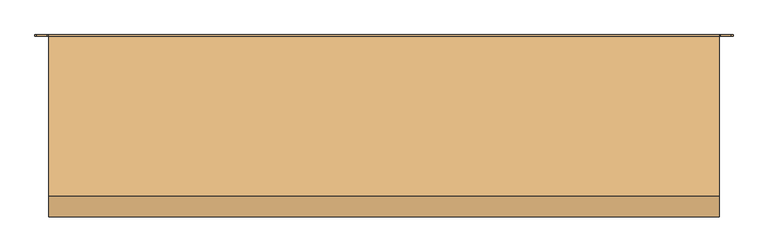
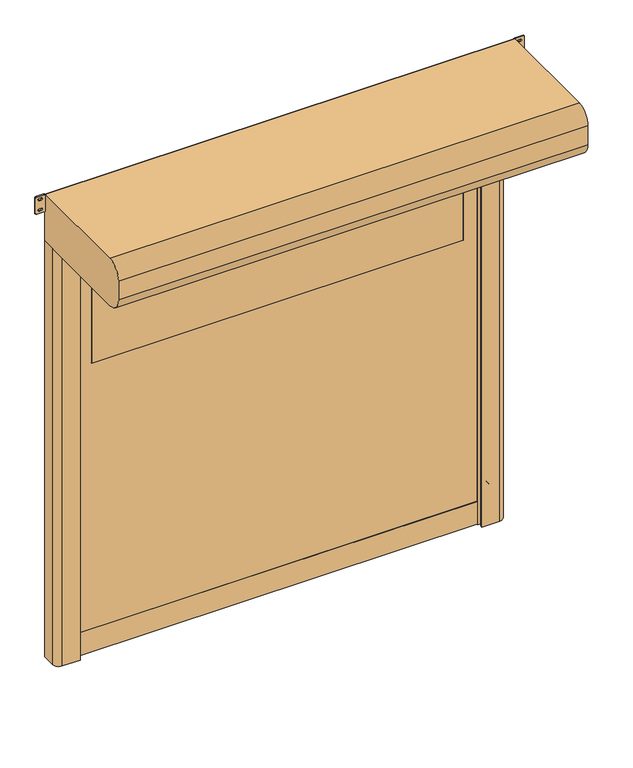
"""IFC4 building model written with IfcOpenShell, lengths in millimetres: door geometry, DO_WPB_Dynamicroll_BMP : Dynamicroll Low Headroom."""

import ifcopenshell
import ifcopenshell.guid

model = None  # the IFC model being written
_history = None  # IfcOwnerHistory: only IFC2X3 demands one
_inside = {}  # id of a spatial element -> (the spatial element, [elements in it])
_under = {}  # id of a project, library or spatial element -> (it, [spatial elements below it])
_declared = {}  # id of a project -> (the project, [libraries it declares])
_typed = {}  # id of a type object -> (the type object, [elements of that type])
_made_of = {}  # id of a material, layer set ... -> (it, [elements and type objects made of it])


def new_model(schema):
    """Start an empty IFC model of exactly this schema.

    Asked for "IFC4X3", IfcOpenShell would pick the latest addendum, in which some entities
    have other attributes; the version numbers below select the first issue.
    IFC2X3 requires an IfcOwnerHistory on every rooted entity: one is made here for all.
    """
    global model, _history
    if schema == "IFC4X3":
        model = ifcopenshell.file(schema_version=(4, 3, 0, 0))
    else:
        model = ifcopenshell.file(schema=schema)
    _inside.clear()
    _under.clear()
    _declared.clear()
    _typed.clear()
    _made_of.clear()
    _history = None
    if model.schema == "IFC2X3":
        org = make("IfcOrganization", Name="unknown")
        user = make(
            "IfcPersonAndOrganization",
            ThePerson=make("IfcPerson", FamilyName="unknown"),
            TheOrganization=org,
        )
        app = make(
            "IfcApplication",
            ApplicationDeveloper=org,
            Version="unknown",
            ApplicationFullName="unknown",
            ApplicationIdentifier="unknown",
        )
        _history = make(
            "IfcOwnerHistory",
            OwningUser=user,
            OwningApplication=app,
            ChangeAction="ADDED",
            CreationDate=0,
        )
    return model


def make(cls, **values):
    """One entity of the class cls with the attributes given. An attribute that is None is left unset."""
    return model.create_entity(
        cls, **{name: value for name, value in values.items() if value is not None}
    )


def rooted(cls, **values):
    """An entity with a GlobalId (a new one), such as an element, a storey or a relation."""
    return make(cls, GlobalId=ifcopenshell.guid.new(), OwnerHistory=_history, **values)


def si_unit(unit_type, name, prefix=None):
    """IfcSIUnit, for example si_unit("LENGTHUNIT", "METRE", prefix="MILLI")."""
    return make("IfcSIUnit", UnitType=unit_type, Prefix=prefix, Name=name)


def assignment(units):
    """IfcUnitAssignment: the units of a project."""
    return None if units is None else make("IfcUnitAssignment", Units=units)


def point(xyz):
    """IfcCartesianPoint."""
    return None if xyz is None else make("IfcCartesianPoint", Coordinates=xyz)


def direction(xyz):
    """IfcDirection."""
    return None if xyz is None else make("IfcDirection", DirectionRatios=xyz)


def frame(location, z_axis=None, x_axis=None):
    """IfcAxis2Placement3D, a coordinate frame: its origin and axes. An axis left out is left unset."""
    return make(
        "IfcAxis2Placement3D",
        Location=point(location),
        Axis=direction(z_axis),
        RefDirection=direction(x_axis),
    )


def frame_2d(location, x_axis=None):
    """IfcAxis2Placement2D, a coordinate frame in the plane: its origin and x axis."""
    return make(
        "IfcAxis2Placement2D", Location=point(location), RefDirection=direction(x_axis)
    )


def origin():
    """The frame at (0, 0, 0) with its axes left unset."""
    return frame((0.0, 0.0, 0.0))


def origin_with_axes():
    """The frame at (0, 0, 0) with the z axis (0, 0, 1) and the x axis (1, 0, 0) written out."""
    return frame((0.0, 0.0, 0.0), z_axis=(0.0, 0.0, 1.0), x_axis=(1.0, 0.0, 0.0))


def place(relative_to, where):
    """IfcLocalPlacement: puts the frame where relative to a parent placement (None: the world)."""
    return make(
        "IfcLocalPlacement", PlacementRelTo=relative_to, RelativePlacement=where
    )


def context(
    kind, dimensions, precision=None, world=None, true_north=None, identifier=None
):
    """IfcGeometricRepresentationContext, for example the 3D "Model" context."""
    return make(
        "IfcGeometricRepresentationContext",
        ContextIdentifier=identifier,
        ContextType=kind,
        CoordinateSpaceDimension=dimensions,
        Precision=precision,
        WorldCoordinateSystem=world,
        TrueNorth=true_north,
    )


def project(units=None, contexts=None):
    """IfcProject with its units and contexts."""
    return rooted(
        "IfcProject",
        Name="project",
        RepresentationContexts=contexts,
        UnitsInContext=assignment(units),
    )


def spatial(cls, under=None, at=None, **own):
    """A site, building, storey or space (cls), placed at a placement, below another one or the project."""
    s = rooted(cls, ObjectPlacement=at, **own)
    if under is not None:
        _under.setdefault(under.id(), (under, []))[1].append(s)
    return s


def polyline(points):
    """IfcPolyline through the points."""
    return make("IfcPolyline", Points=[point(p) for p in points])


def circle_curve(where, radius):
    """IfcCircle in the frame where."""
    return make("IfcCircle", Position=where, Radius=radius)


def trimmed(basis, trim1, trim2, sense, master):
    """IfcTrimmedCurve: the piece of a basis curve between two trims."""
    return make(
        "IfcTrimmedCurve",
        BasisCurve=basis,
        Trim1=trim1,
        Trim2=trim2,
        SenseAgreement=sense,
        MasterRepresentation=master,
    )


def segment(curve, same_sense, transition):
    """IfcCompositeCurveSegment."""
    return make(
        "IfcCompositeCurveSegment",
        Transition=transition,
        SameSense=same_sense,
        ParentCurve=curve,
    )


def composite_curve(segments, self_intersect=None):
    """IfcCompositeCurve: segments joined end to end."""
    return make("IfcCompositeCurve", Segments=segments, SelfIntersect=self_intersect)


def outline(outer, holes=None, kind="AREA"):
    """IfcArbitraryClosedProfileDef: a profile drawn as a closed curve; with holes, ...WithVoids."""
    if holes is None:
        return make("IfcArbitraryClosedProfileDef", ProfileType=kind, OuterCurve=outer)
    return make(
        "IfcArbitraryProfileDefWithVoids",
        ProfileType=kind,
        OuterCurve=outer,
        InnerCurves=holes,
    )


def extrude(swept, where, along, depth):
    """IfcExtrudedAreaSolid: the profile swept, set in the frame where, extruded along a direction by depth."""
    return make(
        "IfcExtrudedAreaSolid",
        SweptArea=swept,
        Position=where,
        ExtrudedDirection=direction(along),
        Depth=depth,
    )


def shape(context_of_items, identifier, shape_type, items):
    """IfcShapeRepresentation: the items that make up one representation, for example the "Body"."""
    return make(
        "IfcShapeRepresentation",
        ContextOfItems=context_of_items,
        RepresentationIdentifier=identifier,
        RepresentationType=shape_type,
        Items=items,
    )


def source(mapping_origin, context_of_items, identifier, shape_type, items):
    """IfcRepresentationMap: a shape defined once, which mapped items show again and again."""
    return make(
        "IfcRepresentationMap",
        MappingOrigin=mapping_origin,
        MappedRepresentation=shape(context_of_items, identifier, shape_type, items),
    )


def transform(
    local_origin,
    x_axis=None,
    y_axis=None,
    z_axis=None,
    scale=None,
    scale2=None,
    scale3=None,
    uniform=True,
):
    """IfcCartesianTransformationOperator3D, or its non-uniform kind. x_axis, y_axis, z_axis: its Axis1, 2, 3."""
    if uniform:
        return make(
            "IfcCartesianTransformationOperator3D",
            Axis1=direction(x_axis),
            Axis2=direction(y_axis),
            LocalOrigin=point(local_origin),
            Scale=scale,
            Axis3=direction(z_axis),
        )
    return make(
        "IfcCartesianTransformationOperator3DnonUniform",
        Axis1=direction(x_axis),
        Axis2=direction(y_axis),
        LocalOrigin=point(local_origin),
        Scale=scale,
        Axis3=direction(z_axis),
        Scale2=scale2,
        Scale3=scale3,
    )


def mapped(mapping_source, mapping_target):
    """IfcMappedItem: shows the shape of a source again, moved by a transform."""
    return make(
        "IfcMappedItem", MappingSource=mapping_source, MappingTarget=mapping_target
    )


def made_of(thing, what):
    """Note that an element or type object is made of a material, layer set ...; save() writes the relation."""
    if what is not None:
        _made_of.setdefault(what.id(), (what, []))[1].append(thing)
    return thing


def element(
    cls,
    number,
    at=None,
    inside=None,
    cuts=None,
    type_object=None,
    material=None,
    context=None,
    identifier="Body",
    shape_type=None,
    held_by="IfcProductDefinitionShape",
    body=None,
    shapes=None,
    **own,
):
    """One element of the class cls, such as IfcWall. Its Tag is "e" and its number.

    at: its placement. inside: the storey or other place that contains it. cuts: it is an
    opening in that element (IfcRelVoidsElement). A single representation is given by context,
    identifier, shape_type and body (its items); several are given by shapes. held_by: the class
    of the entity that holds the representations. save() writes the other relations.
    """
    e = rooted(cls, Tag="e%d" % number, ObjectPlacement=at, **own)
    if body is not None:
        shapes = [shape(context, identifier, shape_type, body)]
    if shapes is not None:
        e.Representation = make(held_by, Representations=shapes)
    if inside is not None:
        _inside.setdefault(inside.id(), (inside, []))[1].append(e)
    if cuts is not None:
        rooted(
            "IfcRelVoidsElement", RelatingBuildingElement=cuts, RelatedOpeningElement=e
        )
    if type_object is not None:
        _typed.setdefault(type_object.id(), (type_object, []))[1].append(e)
    return made_of(e, material)


def aggregate(whole, parts):
    """IfcRelAggregates: a whole, such as a stair, and the parts it consists of."""
    return rooted("IfcRelAggregates", RelatingObject=whole, RelatedObjects=parts)


def save(model, path):
    """Write the relations noted so far, then the file.

    IfcRelAggregates (storeys below a building ...), IfcRelContainedInSpatialStructure (elements
    in a storey), IfcRelDefinesByType, IfcRelAssociatesMaterial and IfcRelDeclares: one each for
    every whole, place, type object, material and project.
    """
    for whole, parts in _under.values():
        aggregate(whole, parts)
    for where, things in _inside.values():
        rooted(
            "IfcRelContainedInSpatialStructure",
            RelatedElements=things,
            RelatingStructure=where,
        )
    for kind, things in _typed.values():
        rooted("IfcRelDefinesByType", RelatedObjects=things, RelatingType=kind)
    for what, things in _made_of.values():
        rooted("IfcRelAssociatesMaterial", RelatedObjects=things, RelatingMaterial=what)
    for by, libraries in _declared.values():
        rooted("IfcRelDeclares", RelatingContext=by, RelatedDefinitions=libraries)
    model.write(path)


def door_88b36e2c(model_context):
    return source(origin(), model_context, "Body", "SweptSolid", [
        extrude(outline(composite_curve([segment(trimmed(circle_curve(frame_2d((1416.6666667, 1064.0)), 6.0), [point((1422.6666667, 1064.0))], [point((1410.6666667, 1064.0))], False, "CARTESIAN"), True, "CONTINUOUS"), segment(polyline([(1410.6666667, 1064.0), (1410.6666667, 1082.0)]), True, "CONTINUOUS"), segment(trimmed(circle_curve(frame_2d((1416.6666667, 1082.0)), 6.0), [point((1410.6666667, 1082.0))], [point((1422.6666667, 1082.0))], False, "CARTESIAN"), True, "CONTINUOUS"), segment(polyline([(1422.6666667, 1082.0), (1422.6666667, 1064.0)]), True, "CONTINUOUS")], self_intersect=False)), frame((0.0, -20.0, 0.0), z_axis=(0.0, 1.0, 0.0), x_axis=(0.0, 0.0, 1.0)), (0.0, 0.0, 1.0), 20.0),
        extrude(outline(composite_curve([segment(trimmed(circle_curve(frame_2d((783.3333333, 1064.0)), 6.0), [point((789.3333333, 1064.0))], [point((777.3333333, 1064.0))], False, "CARTESIAN"), True, "CONTINUOUS"), segment(polyline([(777.3333333, 1064.0), (777.3333333, 1082.0)]), True, "CONTINUOUS"), segment(trimmed(circle_curve(frame_2d((783.3333333, 1082.0)), 6.0), [point((777.3333333, 1082.0))], [point((789.3333333, 1082.0))], False, "CARTESIAN"), True, "CONTINUOUS"), segment(polyline([(789.3333333, 1082.0), (789.3333333, 1064.0)]), True, "CONTINUOUS")], self_intersect=False)), frame((0.0, -20.0, 0.0), z_axis=(0.0, 1.0, 0.0), x_axis=(0.0, 0.0, 1.0)), (0.0, 0.0, 1.0), 20.0),
        extrude(outline(composite_curve([segment(trimmed(circle_curve(frame_2d((2050.0, 1064.0)), 6.0), [point((2056.0, 1064.0))], [point((2044.0, 1064.0))], False, "CARTESIAN"), True, "CONTINUOUS"), segment(polyline([(2044.0, 1064.0), (2044.0, 1082.0)]), True, "CONTINUOUS"), segment(trimmed(circle_curve(frame_2d((2050.0, 1082.0)), 6.0), [point((2044.0, 1082.0))], [point((2056.0, 1082.0))], False, "CARTESIAN"), True, "CONTINUOUS"), segment(polyline([(2056.0, 1082.0), (2056.0, 1064.0)]), True, "CONTINUOUS")], self_intersect=False)), frame((0.0, -20.0, 0.0), z_axis=(0.0, 1.0, 0.0), x_axis=(0.0, 0.0, 1.0)), (0.0, 0.0, 1.0), 20.0),
        extrude(outline(composite_curve([segment(trimmed(circle_curve(frame_2d((150.0, 1064.0)), 6.0), [point((156.0, 1064.0))], [point((144.0, 1064.0))], False, "CARTESIAN"), True, "CONTINUOUS"), segment(polyline([(144.0, 1064.0), (144.0, 1082.0)]), True, "CONTINUOUS"), segment(trimmed(circle_curve(frame_2d((150.0, 1082.0)), 6.0), [point((144.0, 1082.0))], [point((156.0, 1082.0))], False, "CARTESIAN"), True, "CONTINUOUS"), segment(polyline([(156.0, 1082.0), (156.0, 1064.0)]), True, "CONTINUOUS")], self_intersect=False)), frame((0.0, -20.0, 0.0), z_axis=(0.0, 1.0, 0.0), x_axis=(0.0, 0.0, 1.0)), (0.0, 0.0, 1.0), 20.0),
        extrude(outline(composite_curve([segment(polyline([(1422.6666667, -1064.0), (1422.6666667, -1082.0)]), True, "CONTINUOUS"), segment(trimmed(circle_curve(frame_2d((1416.6666667, -1082.0)), 6.0), [point((1422.6666667, -1082.0))], [point((1410.6666667, -1082.0))], False, "CARTESIAN"), True, "CONTINUOUS"), segment(polyline([(1410.6666667, -1082.0), (1410.6666667, -1064.0)]), True, "CONTINUOUS"), segment(trimmed(circle_curve(frame_2d((1416.6666667, -1064.0)), 6.0), [point((1410.6666667, -1064.0))], [point((1422.6666667, -1064.0))], False, "CARTESIAN"), True, "CONTINUOUS")], self_intersect=False)), frame((0.0, -20.0, 0.0), z_axis=(0.0, 1.0, 0.0), x_axis=(0.0, 0.0, 1.0)), (0.0, 0.0, 1.0), 20.0),
        extrude(outline(composite_curve([segment(polyline([(789.3333333, -1064.0), (789.3333333, -1082.0)]), True, "CONTINUOUS"), segment(trimmed(circle_curve(frame_2d((783.3333333, -1082.0)), 6.0), [point((789.3333333, -1082.0))], [point((777.3333333, -1082.0))], False, "CARTESIAN"), True, "CONTINUOUS"), segment(polyline([(777.3333333, -1082.0), (777.3333333, -1064.0)]), True, "CONTINUOUS"), segment(trimmed(circle_curve(frame_2d((783.3333333, -1064.0)), 6.0), [point((777.3333333, -1064.0))], [point((789.3333333, -1064.0))], False, "CARTESIAN"), True, "CONTINUOUS")], self_intersect=False)), frame((0.0, -20.0, 0.0), z_axis=(0.0, 1.0, 0.0), x_axis=(0.0, 0.0, 1.0)), (0.0, 0.0, 1.0), 20.0),
        extrude(outline(composite_curve([segment(polyline([(2056.0, -1064.0), (2056.0, -1082.0)]), True, "CONTINUOUS"), segment(trimmed(circle_curve(frame_2d((2050.0, -1082.0)), 6.0), [point((2056.0, -1082.0))], [point((2044.0, -1082.0))], False, "CARTESIAN"), True, "CONTINUOUS"), segment(polyline([(2044.0, -1082.0), (2044.0, -1064.0)]), True, "CONTINUOUS"), segment(trimmed(circle_curve(frame_2d((2050.0, -1064.0)), 6.0), [point((2044.0, -1064.0))], [point((2056.0, -1064.0))], False, "CARTESIAN"), True, "CONTINUOUS")], self_intersect=False)), frame((0.0, -20.0, 0.0), z_axis=(0.0, 1.0, 0.0), x_axis=(0.0, 0.0, 1.0)), (0.0, 0.0, 1.0), 20.0),
        extrude(outline(composite_curve([segment(polyline([(156.0, -1064.0), (156.0, -1082.0)]), True, "CONTINUOUS"), segment(trimmed(circle_curve(frame_2d((150.0, -1082.0)), 6.0), [point((156.0, -1082.0))], [point((144.0, -1082.0))], False, "CARTESIAN"), True, "CONTINUOUS"), segment(polyline([(144.0, -1082.0), (144.0, -1064.0)]), True, "CONTINUOUS"), segment(trimmed(circle_curve(frame_2d((150.0, -1064.0)), 6.0), [point((144.0, -1064.0))], [point((156.0, -1064.0))], False, "CARTESIAN"), True, "CONTINUOUS")], self_intersect=False)), frame((0.0, -20.0, 0.0), z_axis=(0.0, 1.0, 0.0), x_axis=(0.0, 0.0, 1.0)), (0.0, 0.0, 1.0), 20.0),
        extrude(outline(composite_curve([segment(trimmed(circle_curve(frame_2d((1526.0, 929.0)), 1.0), [point((1525.0, 929.0))], [point((1526.0, 930.0))], False, "CARTESIAN"), True, "CONTINUOUS"), segment(polyline([(1526.0, 930.0), (2024.0, 930.0)]), True, "CONTINUOUS"), segment(trimmed(circle_curve(frame_2d((2024.0, 929.0)), 1.0), [point((2024.0, 930.0))], [point((2025.0, 929.0))], False, "CARTESIAN"), True, "CONTINUOUS"), segment(polyline([(2025.0, 929.0), (2025.0, -929.0)]), True, "CONTINUOUS"), segment(trimmed(circle_curve(frame_2d((2024.0, -929.0)), 1.0), [point((2025.0, -929.0))], [point((2024.0, -930.0))], False, "CARTESIAN"), True, "CONTINUOUS"), segment(polyline([(2024.0, -930.0), (1526.0, -930.0)]), True, "CONTINUOUS"), segment(trimmed(circle_curve(frame_2d((1526.0, -929.0)), 1.0), [point((1526.0, -930.0))], [point((1525.0, -929.0))], False, "CARTESIAN"), True, "CONTINUOUS"), segment(polyline([(1525.0, -929.0), (1525.0, 929.0)]), True, "CONTINUOUS")], self_intersect=False)), frame((0.0, -68.5, 0.0), z_axis=(0.0, 1.0, 0.0), x_axis=(0.0, 0.0, 1.0)), (0.0, 0.0, 1.0), 7.0),
        extrude(outline(polyline([(120.0, -1012.0), (120.0, 1012.0), (2325.0, 1012.0), (2325.0, -1012.0), (120.0, -1012.0)]), holes=[composite_curve([segment(trimmed(circle_curve(frame_2d((1526.0, 929.0)), 1.0), [point((1526.0, 930.0))], [point((1525.0, 929.0))], True, "CARTESIAN"), True, "CONTINUOUS"), segment(polyline([(1525.0, 929.0), (1525.0, -929.0)]), True, "CONTINUOUS"), segment(trimmed(circle_curve(frame_2d((1526.0, -929.0)), 1.0), [point((1525.0, -929.0))], [point((1526.0, -930.0))], True, "CARTESIAN"), True, "CONTINUOUS"), segment(polyline([(1526.0, -930.0), (2024.0, -930.0)]), True, "CONTINUOUS"), segment(trimmed(circle_curve(frame_2d((2024.0, -929.0)), 1.0), [point((2024.0, -930.0))], [point((2025.0, -929.0))], True, "CARTESIAN"), True, "CONTINUOUS"), segment(polyline([(2025.0, -929.0), (2025.0, 929.0)]), True, "CONTINUOUS"), segment(trimmed(circle_curve(frame_2d((2024.0, 929.0)), 1.0), [point((2025.0, 929.0))], [point((2024.0, 930.0))], True, "CARTESIAN"), True, "CONTINUOUS"), segment(polyline([(2024.0, 930.0), (1526.0, 930.0)]), True, "CONTINUOUS")], self_intersect=False)]), frame((0.0, -68.5, 0.0), z_axis=(0.0, 1.0, 0.0), x_axis=(0.0, 0.0, 1.0)), (0.0, 0.0, 1.0), 7.0),
        extrude(outline(polyline([(-1012.0, -59.5), (1012.0, -59.5), (1012.0, -70.5), (-1012.0, -70.5), (-1012.0, -59.5)])), origin_with_axes(), (0.0, 0.0, 1.0), 120.0),
        extrude(outline(composite_curve([segment(polyline([(-1125.0, 0.0), (-1015.0, 0.0), (-1015.0, -49.2857143), (-1035.0, -55.0), (-1000.0, -55.0), (-1000.0, -61.5), (-1020.0, -61.5), (-1020.0, -68.5), (-1000.0, -68.5), (-1000.0, -75.0), (-1035.0, -75.0), (-1035.0, -90.0), (-1005.0, -90.0), (-1005.0, -100.0), (-1095.0, -100.0)]), True, "CONTINUOUS"), segment(trimmed(circle_curve(frame_2d((-1095.0, -70.0)), 30.0), [point((-1095.0, -100.0))], [point((-1125.0, -70.0))], False, "CARTESIAN"), True, "CONTINUOUS"), segment(polyline([(-1125.0, -70.0), (-1125.0, 0.0)]), True, "CONTINUOUS")], self_intersect=False)), origin_with_axes(), (0.0, 0.0, 1.0), 2200.0),
        extrude(outline(composite_curve([segment(polyline([(1125.0, 0.0), (1125.0, -70.0)]), True, "CONTINUOUS"), segment(trimmed(circle_curve(frame_2d((1095.0, -70.0)), 30.0), [point((1125.0, -70.0))], [point((1095.0, -100.0))], False, "CARTESIAN"), True, "CONTINUOUS"), segment(polyline([(1095.0, -100.0), (1005.0, -100.0), (1005.0, -90.0), (1035.0, -90.0), (1035.0, -75.0), (1000.0, -75.0), (1000.0, -68.5), (1020.0, -68.5), (1020.0, -61.5), (1000.0, -61.5), (1000.0, -55.0), (1035.0, -55.0), (1015.0, -49.2857143), (1015.0, 0.0), (1125.0, 0.0)]), True, "CONTINUOUS")], self_intersect=False)), origin_with_axes(), (0.0, 0.0, 1.0), 2200.0),
        extrude(outline(composite_curve([segment(trimmed(circle_curve(frame_2d((2363.75, -1168.25)), 5.75), [point((2363.75, -1174.0))], [point((2358.0, -1168.25))], False, "CARTESIAN"), True, "CONTINUOUS"), segment(polyline([(2358.0, -1168.25), (2358.0, -1130.75)]), True, "CONTINUOUS"), segment(trimmed(circle_curve(frame_2d((2363.75, -1130.75)), 5.75), [point((2358.0, -1130.75))], [point((2363.75, -1125.0))], False, "CARTESIAN"), True, "CONTINUOUS"), segment(polyline([(2363.75, -1125.0), (2444.25, -1125.0)]), True, "CONTINUOUS"), segment(trimmed(circle_curve(frame_2d((2444.25, -1130.75)), 5.75), [point((2444.25, -1125.0))], [point((2450.0, -1130.75))], False, "CARTESIAN"), True, "CONTINUOUS"), segment(polyline([(2450.0, -1130.75), (2450.0, -1168.25)]), True, "CONTINUOUS"), segment(trimmed(circle_curve(frame_2d((2444.25, -1168.25)), 5.75), [point((2450.0, -1168.25))], [point((2444.25, -1174.0))], False, "CARTESIAN"), True, "CONTINUOUS"), segment(polyline([(2444.25, -1174.0), (2363.75, -1174.0)]), True, "CONTINUOUS")], self_intersect=False), holes=[composite_curve([segment(trimmed(circle_curve(frame_2d((2431.5, -1145.25)), 5.75), [point((2437.25, -1145.25))], [point((2425.75, -1145.25))], True, "CARTESIAN"), True, "CONTINUOUS"), segment(polyline([(2425.75, -1145.25), (2425.75, -1153.75)]), True, "CONTINUOUS"), segment(trimmed(circle_curve(frame_2d((2431.5, -1153.75)), 5.75), [point((2425.75, -1153.75))], [point((2437.25, -1153.75))], True, "CARTESIAN"), True, "CONTINUOUS"), segment(polyline([(2437.25, -1153.75), (2437.25, -1145.25)]), True, "CONTINUOUS")], self_intersect=False), composite_curve([segment(trimmed(circle_curve(frame_2d((2376.5, -1145.25)), 5.75), [point((2382.25, -1145.25))], [point((2370.75, -1145.25))], True, "CARTESIAN"), True, "CONTINUOUS"), segment(polyline([(2370.75, -1145.25), (2370.75, -1153.75)]), True, "CONTINUOUS"), segment(trimmed(circle_curve(frame_2d((2376.5, -1153.75)), 5.75), [point((2370.75, -1153.75))], [point((2382.25, -1153.75))], True, "CARTESIAN"), True, "CONTINUOUS"), segment(polyline([(2382.25, -1153.75), (2382.25, -1145.25)]), True, "CONTINUOUS")], self_intersect=False)]), frame((0.0, -5.0, 0.0), z_axis=(0.0, 1.0, 0.0), x_axis=(0.0, 0.0, 1.0)), (0.0, 0.0, 1.0), 5.0),
        extrude(outline(composite_curve([segment(trimmed(circle_curve(frame_2d((2363.75, 1230.75)), 5.75), [point((2363.75, 1225.0))], [point((2358.0, 1230.75))], False, "CARTESIAN"), True, "CONTINUOUS"), segment(polyline([(2358.0, 1230.75), (2358.0, 1268.25)]), True, "CONTINUOUS"), segment(trimmed(circle_curve(frame_2d((2363.75, 1268.25)), 5.75), [point((2358.0, 1268.25))], [point((2363.75, 1274.0))], False, "CARTESIAN"), True, "CONTINUOUS"), segment(polyline([(2363.75, 1274.0), (2444.25, 1274.0)]), True, "CONTINUOUS"), segment(trimmed(circle_curve(frame_2d((2444.25, 1268.25)), 5.75), [point((2444.25, 1274.0))], [point((2450.0, 1268.25))], False, "CARTESIAN"), True, "CONTINUOUS"), segment(polyline([(2450.0, 1268.25), (2450.0, 1230.75)]), True, "CONTINUOUS"), segment(trimmed(circle_curve(frame_2d((2444.25, 1230.75)), 5.75), [point((2450.0, 1230.75))], [point((2444.25, 1225.0))], False, "CARTESIAN"), True, "CONTINUOUS"), segment(polyline([(2444.25, 1225.0), (2363.75, 1225.0)]), True, "CONTINUOUS")], self_intersect=False), holes=[composite_curve([segment(trimmed(circle_curve(frame_2d((2431.5, 1253.75)), 5.75), [point((2437.25, 1253.75))], [point((2425.75, 1253.75))], True, "CARTESIAN"), True, "CONTINUOUS"), segment(polyline([(2425.75, 1253.75), (2425.75, 1245.25)]), True, "CONTINUOUS"), segment(trimmed(circle_curve(frame_2d((2431.5, 1245.25)), 5.75), [point((2425.75, 1245.25))], [point((2437.25, 1245.25))], True, "CARTESIAN"), True, "CONTINUOUS"), segment(polyline([(2437.25, 1245.25), (2437.25, 1253.75)]), True, "CONTINUOUS")], self_intersect=False), composite_curve([segment(trimmed(circle_curve(frame_2d((2376.5, 1253.75)), 5.75), [point((2382.25, 1253.75))], [point((2370.75, 1253.75))], True, "CARTESIAN"), True, "CONTINUOUS"), segment(polyline([(2370.75, 1253.75), (2370.75, 1245.25)]), True, "CONTINUOUS"), segment(trimmed(circle_curve(frame_2d((2376.5, 1245.25)), 5.75), [point((2370.75, 1245.25))], [point((2382.25, 1245.25))], True, "CARTESIAN"), True, "CONTINUOUS"), segment(polyline([(2382.25, 1245.25), (2382.25, 1253.75)]), True, "CONTINUOUS")], self_intersect=False)]), frame((0.0, -5.0, 0.0), z_axis=(0.0, 1.0, 0.0), x_axis=(0.0, 0.0, 1.0)), (0.0, 0.0, 1.0), 5.0),
        extrude(outline(composite_curve([segment(trimmed(circle_curve(frame_2d((-5.0, 2205.0)), 5.0), [point((0.0, 2205.0))], [point((-5.0, 2200.0))], False, "CARTESIAN"), True, "CONTINUOUS"), segment(polyline([(-5.0, 2200.0), (-565.0, 2200.0)]), True, "CONTINUOUS"), segment(trimmed(circle_curve(frame_2d((-565.0, 2275.0)), 75.0), [point((-565.0, 2200.0))], [point((-640.0, 2275.0))], False, "CARTESIAN"), True, "CONTINUOUS"), segment(polyline([(-640.0, 2275.0), (-640.0, 2375.0)]), True, "CONTINUOUS"), segment(trimmed(circle_curve(frame_2d((-565.0, 2375.0)), 75.0), [point((-640.0, 2375.0))], [point((-565.0, 2450.0))], False, "CARTESIAN"), True, "CONTINUOUS"), segment(polyline([(-565.0, 2450.0), (-5.0, 2450.0)]), True, "CONTINUOUS"), segment(trimmed(circle_curve(frame_2d((-5.0, 2445.0)), 5.0), [point((-5.0, 2450.0))], [point((0.0, 2445.0))], False, "CARTESIAN"), True, "CONTINUOUS"), segment(polyline([(0.0, 2445.0), (0.0, 2205.0)]), True, "CONTINUOUS")], self_intersect=False)), frame((-1125.0, 0.0, 0.0), z_axis=(1.0, 0.0, 0.0), x_axis=(0.0, 1.0, 0.0)), (0.0, 0.0, 1.0), 2350.0),
    ])


if __name__ == "__main__":
    model = new_model("IFC4")
    model_context = context("Model", 3, world=origin())
    ifc_project = project(units=[si_unit("LENGTHUNIT", "METRE", prefix="MILLI")], contexts=[model_context])
    site = spatial("IfcSite", under=ifc_project)
    building = spatial("IfcBuilding", under=site)
    placement = place(None, origin())
    door_shape = door_88b36e2c(model_context)
    element("IfcDoor", 1, ObjectType="DO_WPB_Dynamicroll_BMP : Dynamicroll Low Headroom", at=placement, inside=building, context=model_context, shape_type="MappedRepresentation", body=[
        mapped(door_shape, transform((0.0, 0.0, 0.0), x_axis=(1.0, 0.0, 0.0), y_axis=(0.0, 1.0, 0.0), z_axis=(0.0, 0.0, 1.0))),
    ])
    save(model, "model.ifc")
